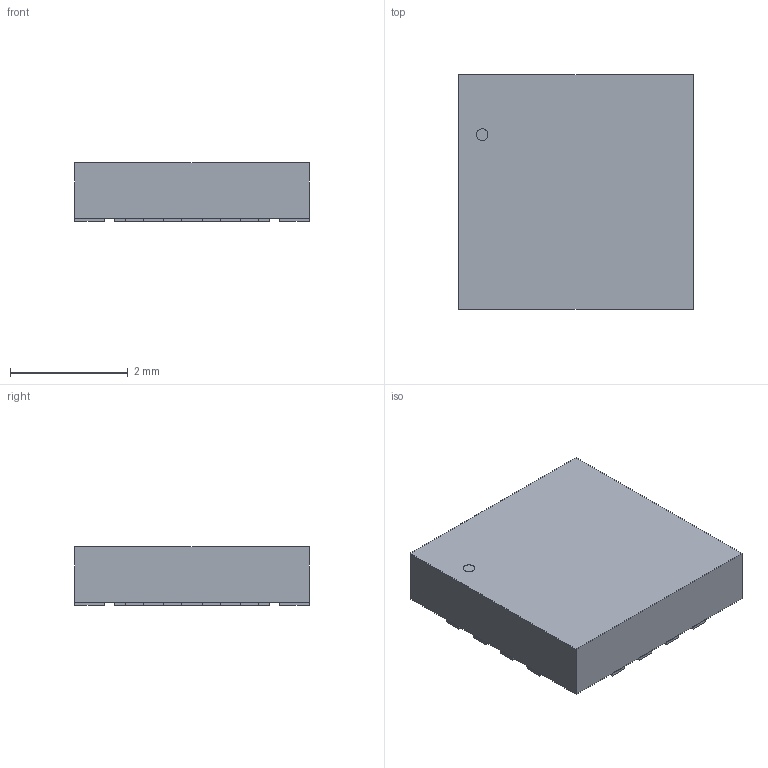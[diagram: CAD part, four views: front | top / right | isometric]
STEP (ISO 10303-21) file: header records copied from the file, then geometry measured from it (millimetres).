
FILE_DESCRIPTION(('STEP AP214'),'1');
FILE_NAME('CP_16_13_ADI','2024-06-19T06:16:48',(''),(''),'','','');
FILE_SCHEMA(('AUTOMOTIVE_DESIGN'));
Length unit declared in the file: millimetre
Products named in the file (1): product
Bounding box: 3.99 x 3.99 x 0.99 mm (x, y, z)
Volume: 15.4 mm3; surface area: 67.6 mm2
Topology: 19 solids, 19 shells, 111 faces, 219 edges, 146 vertices
Faces by surface type: plane 110, cylinder 1
Full cylindrical faces by diameter (mm): 0.199 x1
Entity records: 2821 total; most frequent: DIRECTION 446, ORIENTED_EDGE 436, CARTESIAN_POINT 261, EDGE_CURVE 218, LINE 216, VECTOR 216, VERTEX_POINT 146, AXIS2_PLACEMENT_3D 115
